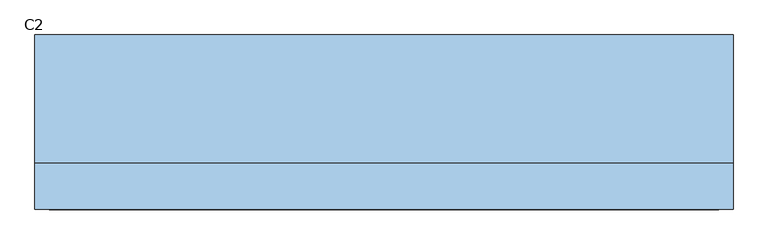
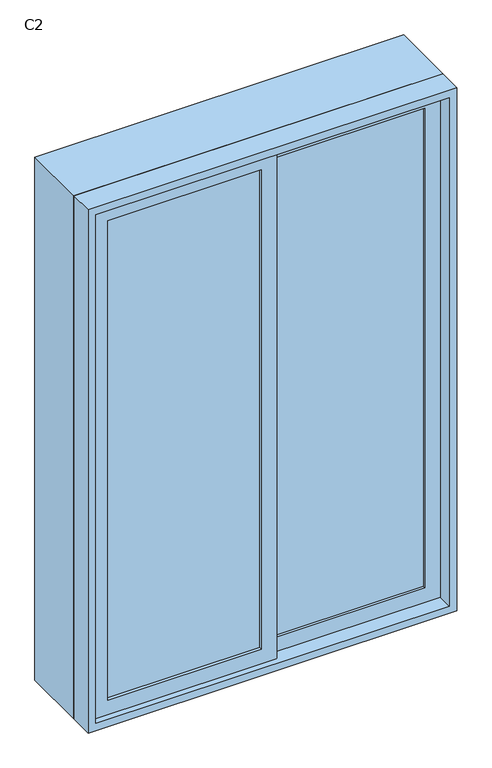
"""IFC4 building model written with IfcOpenShell, lengths in millimetres: window geometry, 推拉窗6 : C2."""

from ifc_helpers import new_model, si_unit, frame, origin, place, context, project, spatial, polyline, outline, extrude, source, transform, mapped, element, save


def c2_e648b95a(model_context):
    return source(origin(), model_context, "Body", "SweptSolid", [
        extrude(outline(polyline([(-515.475, -53.1265625), (-515.475, -43.1265625), (-15.475, -43.1265625), (-15.475, -53.1265625), (-515.475, -53.1265625)])), frame((0.0, 0.0, 975.0), z_axis=(0.0, 0.0, 1.0), x_axis=(1.0, 0.0, 0.0)), (0.0, 0.0, 1.0), 1650.0),
        extrude(outline(polyline([(34.525, -23.1265625), (34.525, -13.1265625), (534.525, -13.1265625), (534.525, -23.1265625), (34.525, -23.1265625)])), frame((0.0, 0.0, 975.0), z_axis=(0.0, 0.0, 1.0), x_axis=(1.0, 0.0, 0.0)), (0.0, 0.0, 1.0), 1650.0),
        extrude(outline(polyline([(2700.0, -590.475), (900.0, -590.475), (900.0, 609.525), (2700.0, 609.525), (2700.0, -590.475)]), holes=[polyline([(2645.0, 559.525), (955.0, 559.525), (955.0, -540.475), (2645.0, -540.475), (2645.0, 559.525)])]), frame((0.0, -3.1265625, 0.0), z_axis=(0.0, 1.0, 0.0), x_axis=(0.0, 0.0, 1.0)), (0.0, 0.0, 1.0), 220.0),
        extrude(outline(polyline([(925.0, 34.525), (2675.0, 34.525), (2675.0, -565.475), (925.0, -565.475), (925.0, 34.525)]), holes=[polyline([(975.0, -15.475), (975.0, -515.475), (2625.0, -515.475), (2625.0, -15.475), (975.0, -15.475)])]), frame((0.0, -63.1265625, 0.0), z_axis=(0.0, 1.0, 0.0), x_axis=(0.0, 0.0, 1.0)), (0.0, 0.0, 1.0), 30.0),
        extrude(outline(polyline([(2675.0, -15.475), (925.0, -15.475), (925.0, 584.525), (2675.0, 584.525), (2675.0, -15.475)]), holes=[polyline([(2625.0, 34.525), (2625.0, 534.525), (975.0, 534.525), (975.0, 34.525), (2625.0, 34.525)])]), frame((0.0, -33.1265625, 0.0), z_axis=(0.0, 1.0, 0.0), x_axis=(0.0, 0.0, 1.0)), (0.0, 0.0, 1.0), 30.0),
        extrude(outline(polyline([(2700.0, -590.475), (900.0, -590.475), (900.0, 609.525), (2700.0, 609.525), (2700.0, -590.475)]), holes=[polyline([(925.0, -565.475), (2675.0, -565.475), (2675.0, 584.525), (925.0, 584.525), (925.0, -565.475)])]), frame((0.0, -83.1265625, 0.0), z_axis=(0.0, 1.0, 0.0), x_axis=(0.0, 0.0, 1.0)), (0.0, 0.0, 1.0), 80.0),
    ])


if __name__ == "__main__":
    model = new_model("IFC4")
    model_context = context("Model", 3, world=origin())
    ifc_project = project(units=[si_unit("LENGTHUNIT", "METRE", prefix="MILLI")], contexts=[model_context])
    site = spatial("IfcSite", under=ifc_project)
    building = spatial("IfcBuilding", under=site)
    placement = place(None, origin())
    c2_shape = c2_e648b95a(model_context)
    element("IfcWindow", 1, ObjectType="推拉窗6 : C2", at=placement, inside=building, context=model_context, shape_type="MappedRepresentation", body=[
        mapped(c2_shape, transform((0.0, 0.0, 0.0), x_axis=(1.0, 0.0, 0.0), y_axis=(0.0, 1.0, 0.0), z_axis=(0.0, 0.0, 1.0))),
    ])
    save(model, "model.ifc")
